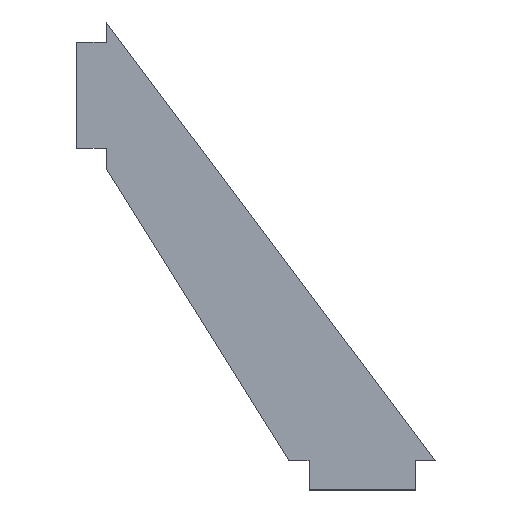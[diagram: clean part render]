
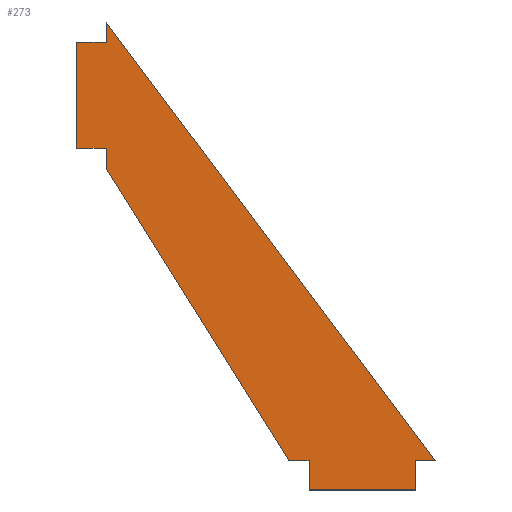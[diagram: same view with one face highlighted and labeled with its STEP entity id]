
A CAD part, top view. The second image highlights one B-rep face of the part: STEP entity #273.
In plain terms, the highlighted planar face has unit normal (0, 0, 1).
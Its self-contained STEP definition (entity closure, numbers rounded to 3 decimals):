
#27=FACE_OUTER_BOUND('',#41,.T.);
#41=EDGE_LOOP('',(#223,#224,#225,#226,#227,#228,#229,#230,#231,#232,#233,
#234));
#45=LINE('',#386,#81);
#48=LINE('',#392,#84);
#51=LINE('',#398,#87);
#54=LINE('',#404,#90);
#57=LINE('',#410,#93);
#60=LINE('',#416,#96);
#63=LINE('',#422,#99);
#66=LINE('',#428,#102);
#69=LINE('',#434,#105);
#72=LINE('',#440,#108);
#75=LINE('',#446,#111);
#78=LINE('',#450,#114);
#81=VECTOR('',#318,10.);
#84=VECTOR('',#323,10.);
#87=VECTOR('',#328,10.);
#90=VECTOR('',#333,10.);
#93=VECTOR('',#338,10.);
#96=VECTOR('',#343,10.);
#99=VECTOR('',#348,10.);
#102=VECTOR('',#353,10.);
#105=VECTOR('',#358,10.);
#108=VECTOR('',#363,10.);
#111=VECTOR('',#368,10.);
#114=VECTOR('',#373,10.);
#117=VERTEX_POINT('',#383);
#118=VERTEX_POINT('',#385);
#120=VERTEX_POINT('',#391);
#122=VERTEX_POINT('',#397);
#124=VERTEX_POINT('',#403);
#126=VERTEX_POINT('',#409);
#128=VERTEX_POINT('',#415);
#130=VERTEX_POINT('',#421);
#132=VERTEX_POINT('',#427);
#134=VERTEX_POINT('',#433);
#136=VERTEX_POINT('',#439);
#138=VERTEX_POINT('',#445);
#141=EDGE_CURVE('',#118,#117,#45,.T.);
#144=EDGE_CURVE('',#120,#118,#48,.T.);
#147=EDGE_CURVE('',#122,#120,#51,.T.);
#150=EDGE_CURVE('',#124,#122,#54,.T.);
#153=EDGE_CURVE('',#126,#124,#57,.T.);
#156=EDGE_CURVE('',#128,#126,#60,.T.);
#159=EDGE_CURVE('',#130,#128,#63,.T.);
#162=EDGE_CURVE('',#132,#130,#66,.T.);
#165=EDGE_CURVE('',#134,#132,#69,.T.);
#168=EDGE_CURVE('',#136,#134,#72,.T.);
#171=EDGE_CURVE('',#138,#136,#75,.T.);
#174=EDGE_CURVE('',#117,#138,#78,.T.);
#223=ORIENTED_EDGE('',*,*,#174,.T.);
#224=ORIENTED_EDGE('',*,*,#171,.T.);
#225=ORIENTED_EDGE('',*,*,#168,.T.);
#226=ORIENTED_EDGE('',*,*,#165,.T.);
#227=ORIENTED_EDGE('',*,*,#162,.T.);
#228=ORIENTED_EDGE('',*,*,#159,.T.);
#229=ORIENTED_EDGE('',*,*,#156,.T.);
#230=ORIENTED_EDGE('',*,*,#153,.T.);
#231=ORIENTED_EDGE('',*,*,#150,.T.);
#232=ORIENTED_EDGE('',*,*,#147,.T.);
#233=ORIENTED_EDGE('',*,*,#144,.T.);
#234=ORIENTED_EDGE('',*,*,#141,.T.);
#259=PLANE('',#310);
#273=ADVANCED_FACE('',(#27),#259,.T.);
#310=AXIS2_PLACEMENT_3D('',#451,#374,#375);
#318=DIRECTION('',(0.,-1.,0.));
#323=DIRECTION('',(-1.,0.,0.));
#328=DIRECTION('',(0.,-1.,0.));
#333=DIRECTION('',(-0.6,0.8,0.));
#338=DIRECTION('',(1.,0.,0.));
#343=DIRECTION('',(0.,1.,0.));
#348=DIRECTION('',(1.,0.,0.));
#353=DIRECTION('',(0.,-1.,0.));
#358=DIRECTION('',(1.,0.,0.));
#363=DIRECTION('',(0.53,-0.848,0.));
#368=DIRECTION('',(0.,-1.,0.));
#373=DIRECTION('',(1.,0.,0.));
#374=DIRECTION('center_axis',(0.,0.,1.));
#375=DIRECTION('ref_axis',(1.,0.,0.));
#383=CARTESIAN_POINT('',(-8.,85.5,8.));
#385=CARTESIAN_POINT('',(-8.,114.5,8.));
#386=CARTESIAN_POINT('',(-8.,114.5,8.));
#391=CARTESIAN_POINT('',(0.,114.5,8.));
#392=CARTESIAN_POINT('',(0.,114.5,8.));
#397=CARTESIAN_POINT('',(0.,120.,8.));
#398=CARTESIAN_POINT('',(0.,120.,8.));
#403=CARTESIAN_POINT('',(90.,0.,8.));
#404=CARTESIAN_POINT('',(90.,0.,8.));
#409=CARTESIAN_POINT('',(84.5,0.,8.));
#410=CARTESIAN_POINT('',(50.,0.,8.));
#415=CARTESIAN_POINT('',(84.5,-8.,8.));
#416=CARTESIAN_POINT('',(84.5,-8.,8.));
#421=CARTESIAN_POINT('',(55.5,-8.,8.));
#422=CARTESIAN_POINT('',(55.5,-8.,8.));
#427=CARTESIAN_POINT('',(55.5,0.,8.));
#428=CARTESIAN_POINT('',(55.5,0.,8.));
#433=CARTESIAN_POINT('',(50.,0.,8.));
#434=CARTESIAN_POINT('',(50.,0.,8.));
#439=CARTESIAN_POINT('',(0.,80.,8.));
#440=CARTESIAN_POINT('',(0.,80.,8.));
#445=CARTESIAN_POINT('',(0.,85.5,8.));
#446=CARTESIAN_POINT('',(0.,120.,8.));
#450=CARTESIAN_POINT('',(-8.,85.5,8.));
#451=CARTESIAN_POINT('Origin',(41.,56.,8.));
